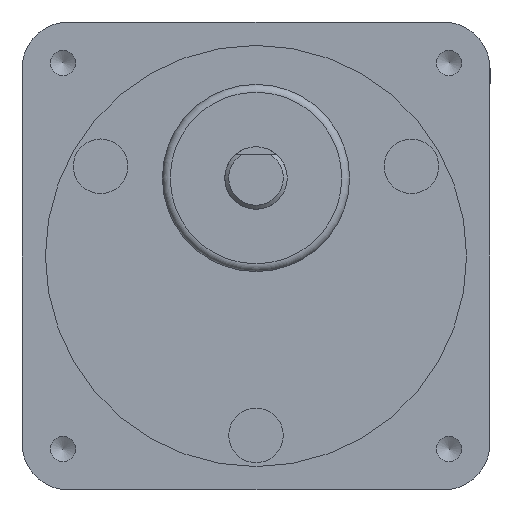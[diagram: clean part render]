
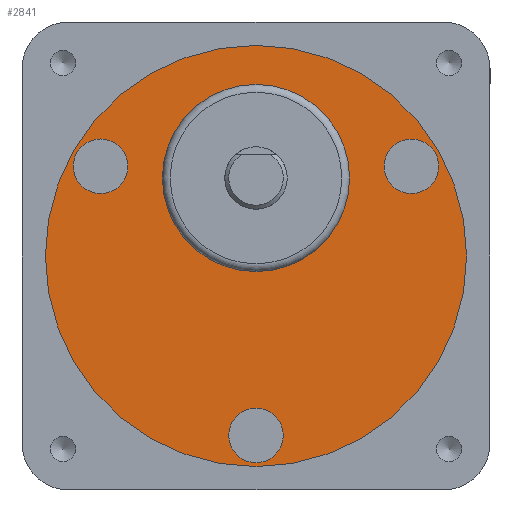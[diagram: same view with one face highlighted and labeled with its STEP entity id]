
A CAD part, front view. The second image highlights one B-rep face of the part: STEP entity #2841.
In plain terms, the highlighted planar face has unit normal (0, -1, 0).
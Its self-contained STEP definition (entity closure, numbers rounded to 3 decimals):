
#104=FACE_BOUND('',#474,.T.);
#105=FACE_BOUND('',#475,.T.);
#106=FACE_BOUND('',#476,.T.);
#107=FACE_BOUND('',#477,.T.);
#167=PLANE('',#3166);
#281=FACE_OUTER_BOUND('',#473,.T.);
#473=EDGE_LOOP('',(#2108));
#474=EDGE_LOOP('',(#2109));
#475=EDGE_LOOP('',(#2110));
#476=EDGE_LOOP('',(#2111));
#477=EDGE_LOOP('',(#2112));
#1069=CIRCLE('',#3070,3.5);
#1071=CIRCLE('',#3074,3.5);
#1073=CIRCLE('',#3078,3.5);
#1122=CIRCLE('',#3165,27.);
#1123=CIRCLE('',#3167,12.);
#1256=VERTEX_POINT('',#4392);
#1258=VERTEX_POINT('',#4399);
#1260=VERTEX_POINT('',#4406);
#1321=VERTEX_POINT('',#4704);
#1322=VERTEX_POINT('',#4708);
#1522=EDGE_CURVE('',#1256,#1256,#1069,.T.);
#1525=EDGE_CURVE('',#1258,#1258,#1071,.T.);
#1528=EDGE_CURVE('',#1260,#1260,#1073,.T.);
#1620=EDGE_CURVE('',#1321,#1321,#1122,.T.);
#1621=EDGE_CURVE('',#1322,#1322,#1123,.T.);
#2108=ORIENTED_EDGE('',*,*,#1620,.T.);
#2109=ORIENTED_EDGE('',*,*,#1522,.T.);
#2110=ORIENTED_EDGE('',*,*,#1525,.T.);
#2111=ORIENTED_EDGE('',*,*,#1528,.T.);
#2112=ORIENTED_EDGE('',*,*,#1621,.F.);
#2841=ADVANCED_FACE('',(#281,#104,#105,#106,#107),#167,.F.);
#3070=AXIS2_PLACEMENT_3D('',#4393,#3443,#3444);
#3074=AXIS2_PLACEMENT_3D('',#4400,#3452,#3453);
#3078=AXIS2_PLACEMENT_3D('',#4407,#3461,#3462);
#3165=AXIS2_PLACEMENT_3D('',#4706,#3678,#3679);
#3166=AXIS2_PLACEMENT_3D('',#4707,#3680,#3681);
#3167=AXIS2_PLACEMENT_3D('',#4709,#3682,#3683);
#3443=DIRECTION('center_axis',(0.,1.,0.));
#3444=DIRECTION('ref_axis',(0.5,0.,-0.866));
#3452=DIRECTION('center_axis',(0.,1.,0.));
#3453=DIRECTION('ref_axis',(0.5,0.,0.866));
#3461=DIRECTION('center_axis',(0.,1.,0.));
#3462=DIRECTION('ref_axis',(-1.,0.,0.));
#3678=DIRECTION('center_axis',(0.,-1.,0.));
#3679=DIRECTION('ref_axis',(-1.,0.,0.));
#3680=DIRECTION('center_axis',(0.,1.,0.));
#3681=DIRECTION('ref_axis',(0.,0.,1.));
#3682=DIRECTION('center_axis',(0.,-1.,0.));
#3683=DIRECTION('ref_axis',(-1.,0.,0.));
#4392=CARTESIAN_POINT('',(18.169,0.5,14.531));
#4393=CARTESIAN_POINT('Origin',(19.919,0.5,11.5));
#4399=CARTESIAN_POINT('',(-21.669,0.5,8.469));
#4400=CARTESIAN_POINT('Origin',(-19.919,0.5,11.5));
#4406=CARTESIAN_POINT('',(3.5,0.5,-23.));
#4407=CARTESIAN_POINT('Origin',(0.,0.5,-23.));
#4704=CARTESIAN_POINT('',(27.,0.5,0.));
#4706=CARTESIAN_POINT('Origin',(0.,0.5,0.));
#4707=CARTESIAN_POINT('Origin',(0.,0.5,0.));
#4708=CARTESIAN_POINT('',(12.,0.5,10.));
#4709=CARTESIAN_POINT('Origin',(0.,0.5,10.));
